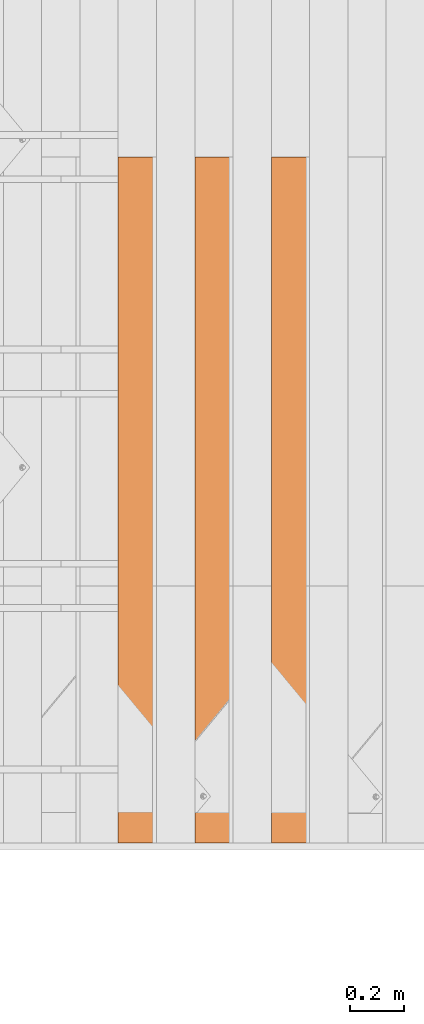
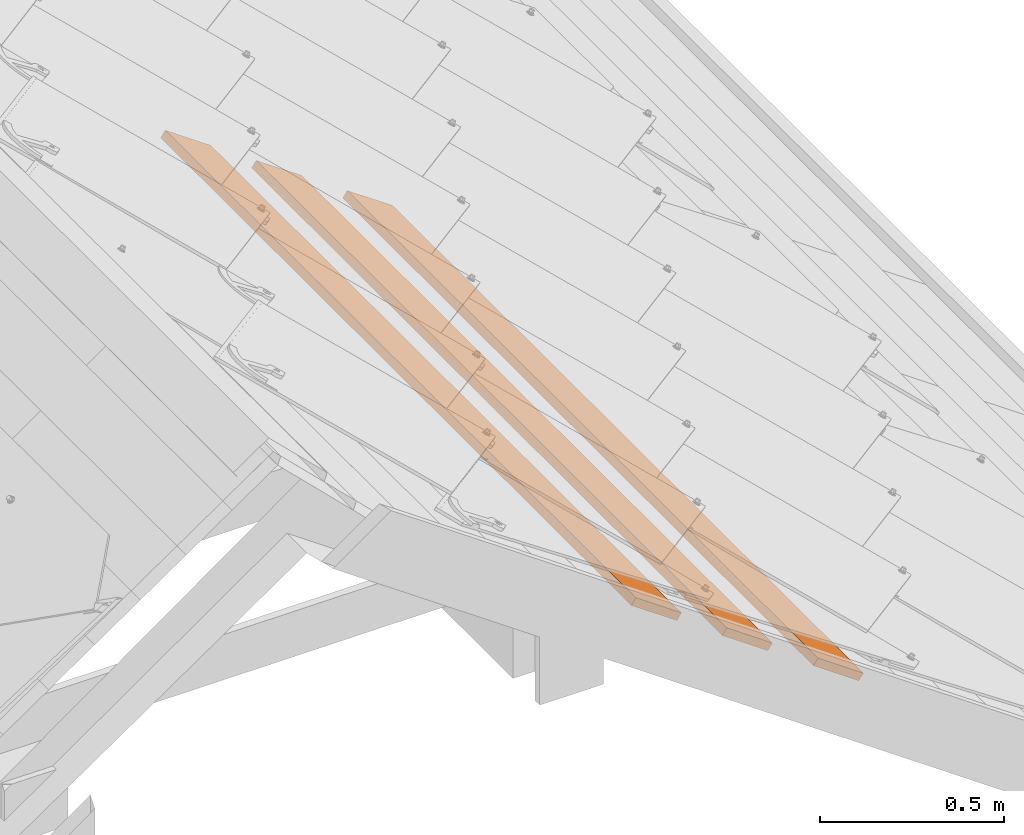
# One storey, part 18 of 151: 3 proxies, 1 element without a shape of its own.
"""IFC2X3 building model written with IfcOpenShell, lengths in millimetres."""

import ifcopenshell
import ifcopenshell.guid

model = None  # the IFC model being written
_history = None  # IfcOwnerHistory: only IFC2X3 demands one
_inside = {}  # id of a spatial element -> (the spatial element, [elements in it])
_under = {}  # id of a project, library or spatial element -> (it, [spatial elements below it])
_declared = {}  # id of a project -> (the project, [libraries it declares])
_typed = {}  # id of a type object -> (the type object, [elements of that type])
_made_of = {}  # id of a material, layer set ... -> (it, [elements and type objects made of it])


def new_model(schema):
    """Start an empty IFC model of exactly this schema.

    Asked for "IFC4X3", IfcOpenShell would pick the latest addendum, in which some entities
    have other attributes; the version numbers below select the first issue.
    IFC2X3 requires an IfcOwnerHistory on every rooted entity: one is made here for all.
    """
    global model, _history
    if schema == "IFC4X3":
        model = ifcopenshell.file(schema_version=(4, 3, 0, 0))
    else:
        model = ifcopenshell.file(schema=schema)
    _inside.clear()
    _under.clear()
    _declared.clear()
    _typed.clear()
    _made_of.clear()
    _history = None
    if model.schema == "IFC2X3":
        org = make("IfcOrganization", Name="unknown")
        user = make(
            "IfcPersonAndOrganization",
            ThePerson=make("IfcPerson", FamilyName="unknown"),
            TheOrganization=org,
        )
        app = make(
            "IfcApplication",
            ApplicationDeveloper=org,
            Version="unknown",
            ApplicationFullName="unknown",
            ApplicationIdentifier="unknown",
        )
        _history = make(
            "IfcOwnerHistory",
            OwningUser=user,
            OwningApplication=app,
            ChangeAction="ADDED",
            CreationDate=0,
        )
    return model


def make(cls, **values):
    """One entity of the class cls with the attributes given. An attribute that is None is left unset."""
    return model.create_entity(
        cls, **{name: value for name, value in values.items() if value is not None}
    )


def entity(cls, *values):
    """Any entity or typed value of the class cls, its attributes in the order of the schema. None: left unset."""
    e = model.create_entity(cls)
    for i, value in enumerate(values):
        if value is not None:
            e[i] = value
    return e


def rooted(cls, **values):
    """An entity with a GlobalId (a new one), such as an element, a storey or a relation."""
    return make(cls, GlobalId=ifcopenshell.guid.new(), OwnerHistory=_history, **values)


def si_unit(unit_type, name, prefix=None):
    """IfcSIUnit, for example si_unit("LENGTHUNIT", "METRE", prefix="MILLI")."""
    return make("IfcSIUnit", UnitType=unit_type, Prefix=prefix, Name=name)


def converted_unit(unit_type, name, factor, base, dimensions=None, offset=None):
    """IfcConversionBasedUnit, such as the inch: factor (a typed value) times the base unit."""
    return make(
        "IfcConversionBasedUnit"
        if offset is None
        else "IfcConversionBasedUnitWithOffset",
        ConversionOffset=offset,
        Dimensions=None
        if dimensions is None
        else entity("IfcDimensionalExponents", *dimensions),
        UnitType=unit_type,
        Name=name,
        ConversionFactor=make(
            "IfcMeasureWithUnit", ValueComponent=factor, UnitComponent=base
        ),
    )


def derived_unit(unit_type, elements):
    """IfcDerivedUnit: a product of units, each with its exponent."""
    return make(
        "IfcDerivedUnit",
        Elements=[
            make("IfcDerivedUnitElement", Unit=unit, Exponent=power)
            for unit, power in elements
        ],
        UnitType=unit_type,
    )


def assignment(units):
    """IfcUnitAssignment: the units of a project."""
    return None if units is None else make("IfcUnitAssignment", Units=units)


def point(xyz):
    """IfcCartesianPoint."""
    return None if xyz is None else make("IfcCartesianPoint", Coordinates=xyz)


def direction(xyz):
    """IfcDirection."""
    return None if xyz is None else make("IfcDirection", DirectionRatios=xyz)


def frame(location, z_axis=None, x_axis=None):
    """IfcAxis2Placement3D, a coordinate frame: its origin and axes. An axis left out is left unset."""
    return make(
        "IfcAxis2Placement3D",
        Location=point(location),
        Axis=direction(z_axis),
        RefDirection=direction(x_axis),
    )


def frame_2d(location, x_axis=None):
    """IfcAxis2Placement2D, a coordinate frame in the plane: its origin and x axis."""
    return make(
        "IfcAxis2Placement2D", Location=point(location), RefDirection=direction(x_axis)
    )


def origin():
    """The frame at (0, 0, 0) with its axes left unset."""
    return frame((0.0, 0.0, 0.0))


def place(relative_to, where):
    """IfcLocalPlacement: puts the frame where relative to a parent placement (None: the world)."""
    return make(
        "IfcLocalPlacement", PlacementRelTo=relative_to, RelativePlacement=where
    )


def context(
    kind, dimensions, precision=None, world=None, true_north=None, identifier=None
):
    """IfcGeometricRepresentationContext, for example the 3D "Model" context."""
    return make(
        "IfcGeometricRepresentationContext",
        ContextIdentifier=identifier,
        ContextType=kind,
        CoordinateSpaceDimension=dimensions,
        Precision=precision,
        WorldCoordinateSystem=world,
        TrueNorth=true_north,
    )


def subcontext(parent, identifier, kind, view, scale=None):
    """IfcGeometricRepresentationSubContext, for example "Body" below "Model"."""
    return make(
        "IfcGeometricRepresentationSubContext",
        ContextIdentifier=identifier,
        ContextType=kind,
        ParentContext=parent,
        TargetScale=scale,
        TargetView=view,
    )


def project(units=None, contexts=None):
    """IfcProject with its units and contexts."""
    return rooted(
        "IfcProject",
        Name="project",
        RepresentationContexts=contexts,
        UnitsInContext=assignment(units),
    )


def spatial(cls, under=None, at=None, **own):
    """A site, building, storey or space (cls), placed at a placement, below another one or the project."""
    s = rooted(cls, ObjectPlacement=at, **own)
    if under is not None:
        _under.setdefault(under.id(), (under, []))[1].append(s)
    return s


def profile(cls, at=None, kind="AREA", **sizes):
    """A parametric profile (cls). Its sizes go by their IFC names, for example OverallWidth=200.0."""
    return make(cls, ProfileType=kind, Position=at, **sizes)


def rectangle(**sizes):
    """IfcRectangleProfileDef."""
    return profile("IfcRectangleProfileDef", **sizes)


def extrude(swept, where, along, depth):
    """IfcExtrudedAreaSolid: the profile swept, set in the frame where, extruded along a direction by depth."""
    return make(
        "IfcExtrudedAreaSolid",
        SweptArea=swept,
        Position=where,
        ExtrudedDirection=direction(along),
        Depth=depth,
    )


def shape(context_of_items, identifier, shape_type, items):
    """IfcShapeRepresentation: the items that make up one representation, for example the "Body"."""
    return make(
        "IfcShapeRepresentation",
        ContextOfItems=context_of_items,
        RepresentationIdentifier=identifier,
        RepresentationType=shape_type,
        Items=items,
    )


def source(mapping_origin, context_of_items, identifier, shape_type, items):
    """IfcRepresentationMap: a shape defined once, which mapped items show again and again."""
    return make(
        "IfcRepresentationMap",
        MappingOrigin=mapping_origin,
        MappedRepresentation=shape(context_of_items, identifier, shape_type, items),
    )


def transform(
    local_origin,
    x_axis=None,
    y_axis=None,
    z_axis=None,
    scale=None,
    scale2=None,
    scale3=None,
    uniform=True,
):
    """IfcCartesianTransformationOperator3D, or its non-uniform kind. x_axis, y_axis, z_axis: its Axis1, 2, 3."""
    if uniform:
        return make(
            "IfcCartesianTransformationOperator3D",
            Axis1=direction(x_axis),
            Axis2=direction(y_axis),
            LocalOrigin=point(local_origin),
            Scale=scale,
            Axis3=direction(z_axis),
        )
    return make(
        "IfcCartesianTransformationOperator3DnonUniform",
        Axis1=direction(x_axis),
        Axis2=direction(y_axis),
        LocalOrigin=point(local_origin),
        Scale=scale,
        Axis3=direction(z_axis),
        Scale2=scale2,
        Scale3=scale3,
    )


def mapped(mapping_source, mapping_target):
    """IfcMappedItem: shows the shape of a source again, moved by a transform."""
    return make(
        "IfcMappedItem", MappingSource=mapping_source, MappingTarget=mapping_target
    )


def material(Name=None, Category=None):
    """IfcMaterial."""
    return make("IfcMaterial", Name=Name, Category=Category)


def made_of(thing, what):
    """Note that an element or type object is made of a material, layer set ...; save() writes the relation."""
    if what is not None:
        _made_of.setdefault(what.id(), (what, []))[1].append(thing)
    return thing


def type_object(cls, material=None, **own):
    """A type object (cls), such as IfcWallType, which elements share."""
    return made_of(rooted(cls, **own), material)


def type_shapes(of_type, sources):
    """Give a type object the sources (RepresentationMaps) that its elements show as mapped items."""
    of_type.RepresentationMaps = sources


def element(
    cls,
    number,
    at=None,
    inside=None,
    cuts=None,
    type_object=None,
    material=None,
    context=None,
    identifier="Body",
    shape_type=None,
    held_by="IfcProductDefinitionShape",
    body=None,
    shapes=None,
    **own,
):
    """One element of the class cls, such as IfcWall. Its Tag is "e" and its number.

    at: its placement. inside: the storey or other place that contains it. cuts: it is an
    opening in that element (IfcRelVoidsElement). A single representation is given by context,
    identifier, shape_type and body (its items); several are given by shapes. held_by: the class
    of the entity that holds the representations. save() writes the other relations.
    """
    e = rooted(cls, Tag="e%d" % number, ObjectPlacement=at, **own)
    if body is not None:
        shapes = [shape(context, identifier, shape_type, body)]
    if shapes is not None:
        e.Representation = make(held_by, Representations=shapes)
    if inside is not None:
        _inside.setdefault(inside.id(), (inside, []))[1].append(e)
    if cuts is not None:
        rooted(
            "IfcRelVoidsElement", RelatingBuildingElement=cuts, RelatedOpeningElement=e
        )
    if type_object is not None:
        _typed.setdefault(type_object.id(), (type_object, []))[1].append(e)
    return made_of(e, material)


def aggregate(whole, parts):
    """IfcRelAggregates: a whole, such as a stair, and the parts it consists of."""
    return rooted("IfcRelAggregates", RelatingObject=whole, RelatedObjects=parts)


def save(model, path):
    """Write the relations noted so far, then the file.

    IfcRelAggregates (storeys below a building ...), IfcRelContainedInSpatialStructure (elements
    in a storey), IfcRelDefinesByType, IfcRelAssociatesMaterial and IfcRelDeclares: one each for
    every whole, place, type object, material and project.
    """
    for whole, parts in _under.values():
        aggregate(whole, parts)
    for where, things in _inside.values():
        rooted(
            "IfcRelContainedInSpatialStructure",
            RelatedElements=things,
            RelatingStructure=where,
        )
    for kind, things in _typed.values():
        rooted("IfcRelDefinesByType", RelatedObjects=things, RelatingType=kind)
    for what, things in _made_of.values():
        rooted("IfcRelAssociatesMaterial", RelatedObjects=things, RelatingMaterial=what)
    for by, libraries in _declared.values():
        rooted("IfcRelDeclares", RelatingContext=by, RelatedDefinitions=libraries)
    model.write(path)


model = new_model("IFC2X3")

# Units and contexts
model_context = context("Model", 3, precision=0.01, world=origin(), true_north=direction((6.12303176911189e-17, 1.0)))
body_context = subcontext(model_context, "Body", "Model", "MODEL_VIEW")
ifc_project = project(units=[si_unit("LENGTHUNIT", "METRE", prefix="MILLI"), si_unit("AREAUNIT", "SQUARE_METRE"), si_unit("VOLUMEUNIT", "CUBIC_METRE"), converted_unit("PLANEANGLEUNIT", "DEGREE", entity("IfcRatioMeasure", 0.0174532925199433), si_unit("PLANEANGLEUNIT", "RADIAN"), dimensions=[0, 0, 0, 0, 0, 0, 0]), si_unit("MASSUNIT", "GRAM", prefix="KILO"), derived_unit("MASSDENSITYUNIT", [(si_unit("MASSUNIT", "GRAM", prefix="KILO"), 1), (si_unit("LENGTHUNIT", "METRE"), -3)]), si_unit("TIMEUNIT", "SECOND"), si_unit("FREQUENCYUNIT", "HERTZ"), si_unit("THERMODYNAMICTEMPERATUREUNIT", "DEGREE_CELSIUS"), derived_unit("THERMALTRANSMITTANCEUNIT", [(si_unit("MASSUNIT", "GRAM", prefix="KILO"), 1), (si_unit("THERMODYNAMICTEMPERATUREUNIT", "KELVIN"), -1), (si_unit("TIMEUNIT", "SECOND"), -3)]), derived_unit("VOLUMETRICFLOWRATEUNIT", [(si_unit("LENGTHUNIT", "METRE"), 3), (si_unit("TIMEUNIT", "SECOND"), -1)]), si_unit("ELECTRICCURRENTUNIT", "AMPERE"), si_unit("ELECTRICVOLTAGEUNIT", "VOLT"), si_unit("POWERUNIT", "WATT"), si_unit("FORCEUNIT", "NEWTON", prefix="KILO"), si_unit("ILLUMINANCEUNIT", "LUX"), si_unit("LUMINOUSFLUXUNIT", "LUMEN"), si_unit("LUMINOUSINTENSITYUNIT", "CANDELA"), derived_unit("USERDEFINED", [(si_unit("MASSUNIT", "GRAM", prefix="KILO"), -1), (si_unit("LENGTHUNIT", "METRE"), -2), (si_unit("TIMEUNIT", "SECOND"), 3), (si_unit("LUMINOUSFLUXUNIT", "LUMEN"), 1)]), derived_unit("LINEARVELOCITYUNIT", [(si_unit("LENGTHUNIT", "METRE"), 1), (si_unit("TIMEUNIT", "SECOND"), -1)]), si_unit("PRESSUREUNIT", "PASCAL"), derived_unit("USERDEFINED", [(si_unit("LENGTHUNIT", "METRE"), -2), (si_unit("MASSUNIT", "GRAM", prefix="KILO"), 1), (si_unit("TIMEUNIT", "SECOND"), -2)])], contexts=[model_context])

# Site, building, storey
site_placement = place(None, origin())
site = spatial("IfcSite", under=ifc_project, at=site_placement, Name="Default", CompositionType="ELEMENT")
building_placement = place(site_placement, origin())
building = spatial("IfcBuilding", under=site, at=building_placement, CompositionType="ELEMENT")
storey_placement = place(building_placement, origin())
storey = spatial("IfcBuildingStorey", under=building, at=storey_placement, Name="Level 1", CompositionType="ELEMENT", Elevation=0.0)

# Assembly, proxies
assembly_placement = place(storey_placement, origin())
assembly = element("IfcElementAssembly", 1, at=assembly_placement, inside=storey, Name="Structural Framing Assembly:Roof Construction Assembly", ObjectType="Structural Framing Assembly:Roof Construction Assembly", AssemblyPlace="NOTDEFINED", PredefinedType="USERDEFINED")
ifc_material = material(Name="Wood - Generic - Wood For Showcase")
building_element_proxy_type_1 = type_object("IfcBuildingElementProxyType", Name="Structural Framing 15", PredefinedType="NOTDEFINED", material=ifc_material)
shared_shape_1 = source(origin(), body_context, "Body", "SweptSolid", [
    extrude(rectangle(XDim=24.9999999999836, YDim=174.344679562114, at=frame_2d((3.73923114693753e-13, 6.3948846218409e-14), x_axis=(1.0, 0.0))), frame((1285.35601305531, 1437.09519417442, 2760.23940055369), z_axis=(0.0, 1.0, 0.0), x_axis=(0.573576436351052, 0.0, 0.819152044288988)), (0.0, 0.0, 1.0), 2558.4556079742),
])
type_shapes(building_element_proxy_type_1, [shared_shape_1])
proxy_1_placement = place(assembly_placement, frame((1057.19147583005, -8140.0, -700.0)))
proxy_1 = element("IfcBuildingElementProxy", 2, at=proxy_1_placement, type_object=building_element_proxy_type_1, material=ifc_material, Name="Structural Framing 193:Structural Framing 15", ObjectType="Structural Framing 193:Structural Framing 15", context=body_context, shape_type="MappedRepresentation", body=[
    mapped(shared_shape_1, transform((0.0, 0.0, 0.0), scale=1.0)),
])
building_element_proxy_type_2 = type_object("IfcBuildingElementProxyType", Name="Structural Framing 15", PredefinedType="NOTDEFINED", material=ifc_material)
shared_shape_2 = source(origin(), body_context, "Body", "SweptSolid", [
    extrude(rectangle(XDim=24.9999999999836, YDim=174.344679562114, at=frame_2d((3.73923114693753e-13, 6.3948846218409e-14), x_axis=(1.0, 0.0))), frame((1285.35601305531, 1437.09519417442, 2760.23940055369), z_axis=(0.0, 1.0, 0.0), x_axis=(0.573576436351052, 0.0, 0.819152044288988)), (0.0, 0.0, 1.0), 2558.45560797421),
])
type_shapes(building_element_proxy_type_2, [shared_shape_2])
proxy_2_placement = place(assembly_placement, frame((1342.8210771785, -8140.0, -900.0)))
proxy_2 = element("IfcBuildingElementProxy", 3, at=proxy_2_placement, type_object=building_element_proxy_type_2, material=ifc_material, Name="Structural Framing 203:Structural Framing 15", ObjectType="Structural Framing 203:Structural Framing 15", context=body_context, shape_type="MappedRepresentation", body=[
    mapped(shared_shape_2, transform((0.0, 0.0, 0.0), scale=1.0)),
])
building_element_proxy_type_3 = type_object("IfcBuildingElementProxyType", Name="Structural Framing 15", PredefinedType="NOTDEFINED", material=ifc_material)
shared_shape_3 = source(origin(), body_context, "Body", "SweptSolid", [
    extrude(rectangle(XDim=24.9999999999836, YDim=174.344679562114, at=frame_2d((3.73923114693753e-13, 6.3948846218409e-14), x_axis=(1.0, 0.0))), frame((1285.35601305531, 1437.09519417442, 2760.23940055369), z_axis=(0.0, 1.0, 0.0), x_axis=(0.573576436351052, 0.0, 0.819152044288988)), (0.0, 0.0, 1.0), 2558.45560797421),
])
type_shapes(building_element_proxy_type_3, [shared_shape_3])
proxy_3_placement = place(assembly_placement, frame((1628.45067852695, -8140.0, -1100.0)))
proxy_3 = element("IfcBuildingElementProxy", 4, at=proxy_3_placement, type_object=building_element_proxy_type_3, material=ifc_material, Name="Structural Framing 213:Structural Framing 15", ObjectType="Structural Framing 213:Structural Framing 15", context=body_context, shape_type="MappedRepresentation", body=[
    mapped(shared_shape_3, transform((0.0, 0.0, 0.0), scale=1.0)),
])
aggregate(assembly, [proxy_1, proxy_2, proxy_3])

save(model, "model.ifc")
